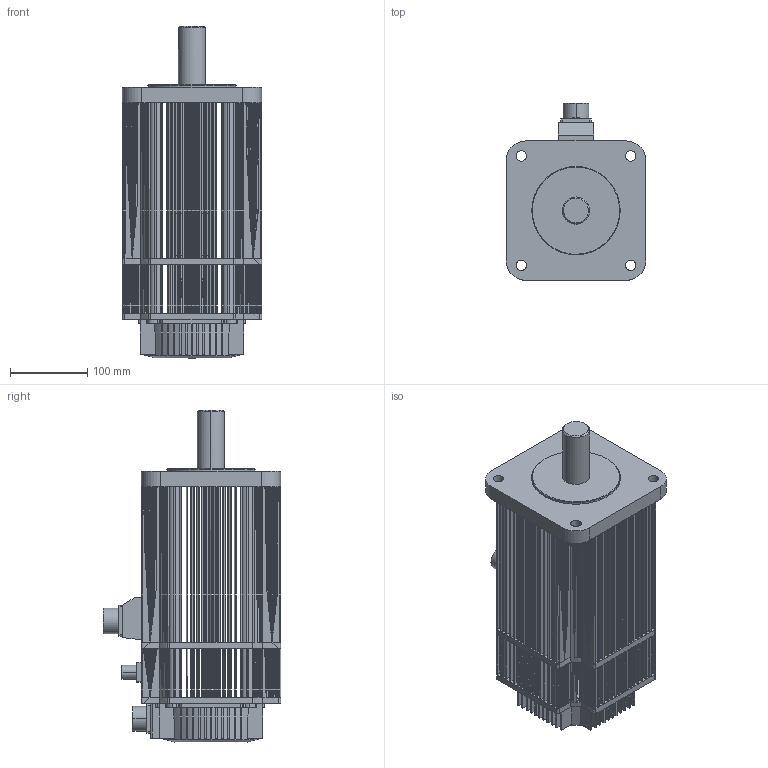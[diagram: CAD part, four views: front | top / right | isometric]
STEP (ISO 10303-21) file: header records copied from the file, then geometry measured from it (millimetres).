
FILE_DESCRIPTION (( 'STEP AP203' ), '1' );
FILE_NAME ('UMM-0050EAB-B3_UMM-0050CAB-B3.STEP', '2019-04-18T07:39:00', ( '' ), ( '' ), 'SwSTEP 2.0', 'SolidWorks 2017', '' );
FILE_SCHEMA (( 'CONFIG_CONTROL_DESIGN' ));
Length unit declared in the file: millimetre
Products named in the file (1): UMM-0050EAB-B3_UMM-0050CAB-B3
Bounding box: 180 x 229 x 429 mm (x, y, z)
Surface area: 534529.9 mm2 (no closed solid volume)
Topology: 0 solids, 5 shells, 1961 faces, 5290 edges, 3273 vertices
Faces by surface type: cylinder 862, plane 649, bspline 442, cone 8
Entity records: 66254 total; most frequent: CARTESIAN_POINT 23126, ORIENTED_EDGE 10138, DIRECTION 6532, EDGE_CURVE 5304, VERTEX_POINT 3280, VECTOR 2638, LINE 2638, B_SPLINE_CURVE_WITH_KNOTS 2235
